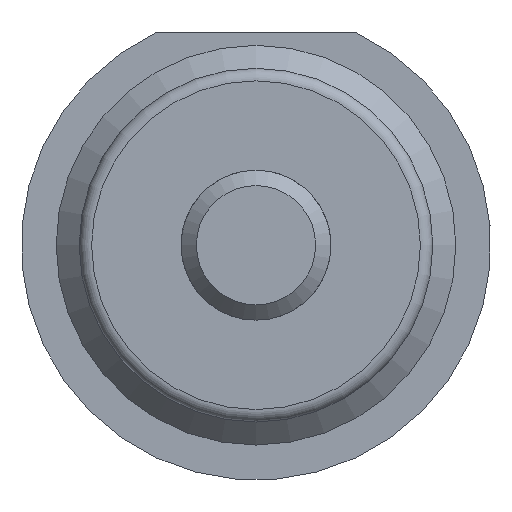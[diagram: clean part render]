
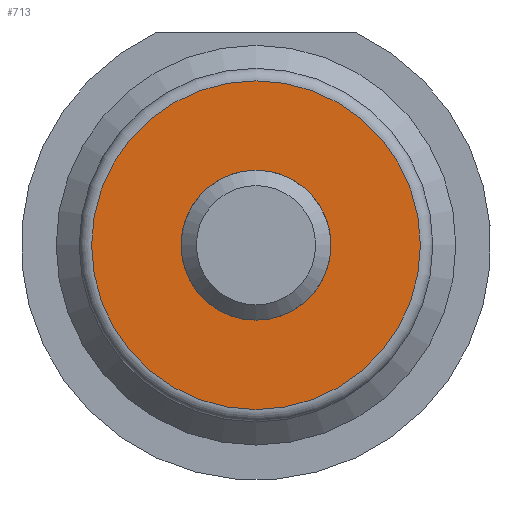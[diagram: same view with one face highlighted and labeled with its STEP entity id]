
A CAD part, left-side view. The second image highlights one B-rep face of the part: STEP entity #713.
In plain terms, the highlighted planar face has unit normal (-1, 0, 0).
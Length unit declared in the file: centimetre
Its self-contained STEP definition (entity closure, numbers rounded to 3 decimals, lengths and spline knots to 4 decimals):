
#44=PLANE($,#787);
#66=FACE_BOUND($,#180,.T.);
#113=FACE_OUTER_BOUND($,#179,.T.);
#179=EDGE_LOOP($,(#553));
#180=EDGE_LOOP($,(#554));
#263=CIRCLE($,#767,0.3);
#271=CIRCLE($,#788,0.658);
#367=VERTEX_POINT($,#1139);
#380=VERTEX_POINT($,#1227);
#435=EDGE_CURVE($,#367,#367,#263,.T.);
#452=EDGE_CURVE($,#380,#380,#271,.T.);
#553=ORIENTED_EDGE($,*,*,#452,.F.);
#554=ORIENTED_EDGE($,*,*,#435,.T.);
#713=ADVANCED_FACE($,(#113,#66),#44,.F.);
#767=AXIS2_PLACEMENT_3D($,#1140,#889,#890);
#787=AXIS2_PLACEMENT_3D($,#1226,#934,#935);
#788=AXIS2_PLACEMENT_3D($,#1228,#936,#937);
#889=DIRECTION('center_axis',(1.,0.,0.));
#890=DIRECTION('ref_axis',(0.,0.,
-1.));
#934=DIRECTION('center_axis',(1.,0.,0.));
#935=DIRECTION('ref_axis',(0.,0.,-1.));
#936=DIRECTION('center_axis',(1.,0.,0.));
#937=DIRECTION('ref_axis',(0.,0.,
-1.));
#1139=CARTESIAN_POINT('',(-0.7,0.,-0.3));
#1140=CARTESIAN_POINT('Origin',(-0.7,0.,0.));
#1226=CARTESIAN_POINT('Origin',(-0.7,0.,0.));
#1227=CARTESIAN_POINT('',(-0.7,0.,-0.658));
#1228=CARTESIAN_POINT('Origin',(-0.7,0.,0.));
